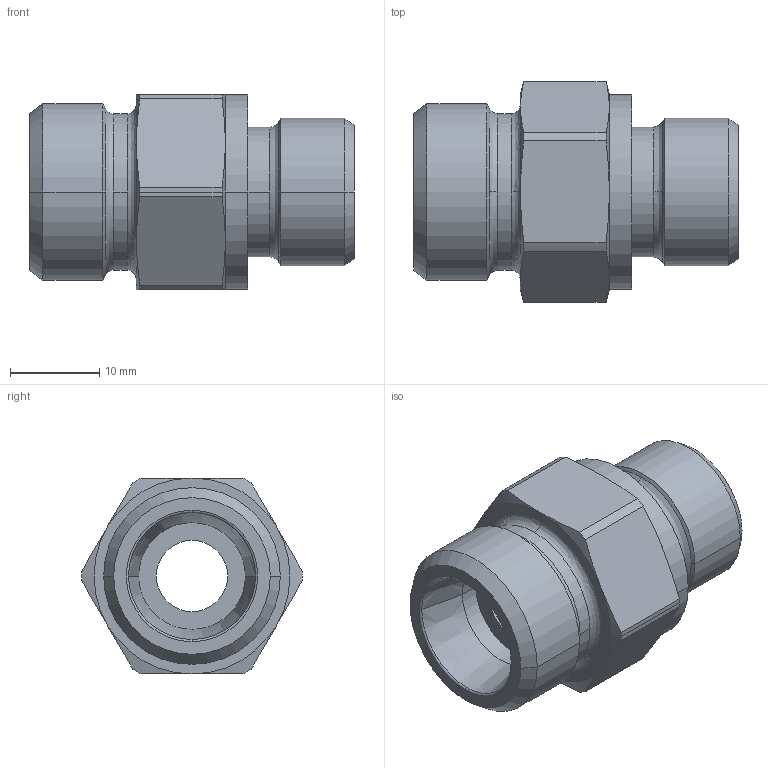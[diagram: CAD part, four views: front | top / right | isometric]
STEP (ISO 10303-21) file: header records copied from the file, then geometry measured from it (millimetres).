
FILE_DESCRIPTION((''),'2;1');
FILE_NAME('100517.stp','2007-10-30T14:16:15',(''),(''),'AutoCAD STEP 2000i','AutoCAD 2000i',', , ');
FILE_SCHEMA(('CONFIG_CONTROL_DESIGN'));
Length unit declared in the file: millimetre
Products named in the file (2): 100517.0; CHIAVE SMUSSATA#0
Assembly tree (1 placements, depth 2):
  100517.0
    CHIAVE SMUSSATA#0
Bounding box: 36.5 x 24.8 x 22 mm (x, y, z)
Volume: 8284.1 mm3; surface area: 4111.5 mm2
Topology: 1 solids, 1 shells, 75 faces, 185 edges, 117 vertices
Faces by surface type: cylinder 24, cone 24, plane 13, bspline 12, torus 2
Entity records: 2835 total; most frequent: CARTESIAN_POINT 955, DIRECTION 410, ORIENTED_EDGE 370, EDGE_CURVE 185, AXIS2_PLACEMENT_3D 184, CIRCLE 119, VERTEX_POINT 117, EDGE_LOOP 82
